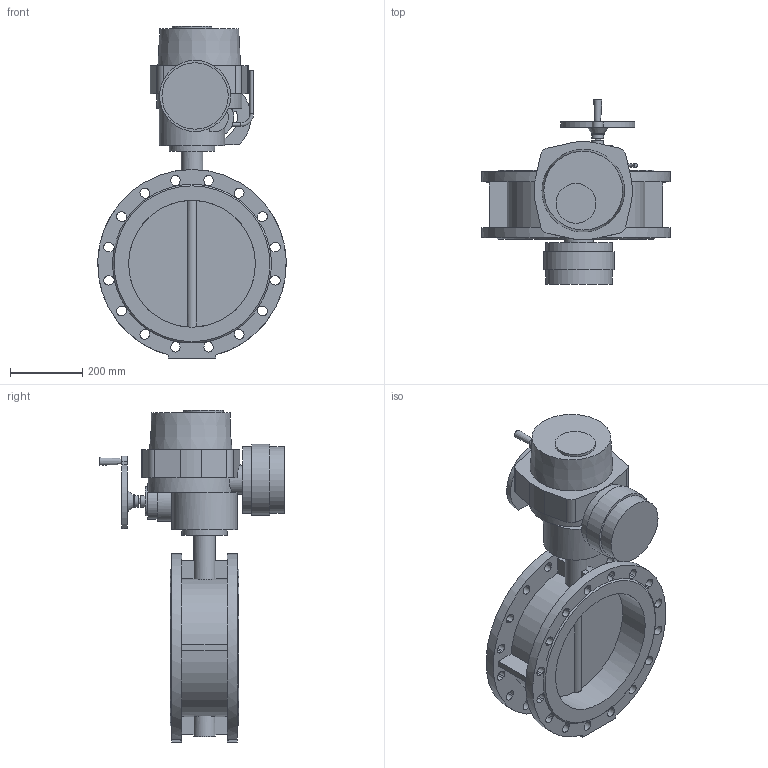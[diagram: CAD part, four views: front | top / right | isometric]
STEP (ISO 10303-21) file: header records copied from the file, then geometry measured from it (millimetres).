
FILE_DESCRIPTION(('STEP AP203'), '1');
FILE_NAME('青蜮铕 021F.Y DN350+菹 QT.A120', '', ('UNSPECIFIED'), ('UNSPECIFIED'), 'ASCON STEP Converter 1.6', 'ASCON Math Kernel', '');
FILE_SCHEMA(('CONFIG_CONTROL_DESIGN'));
Length unit declared in the file: millimetre
Bounding box: 520 x 509 x 916 mm (x, y, z)
Volume: 28996411.9 mm3; surface area: 1761586.8 mm2
Topology: 1 solids, 1 shells, 292 faces, 832 edges, 539 vertices
Faces by surface type: plane 163, cylinder 123, cone 5, torus 1
Full cylindrical faces by diameter (mm): 10 x6, 12 x4, 14 x4, 16 x1, 32 x2, 35 x1, 60 x2, 80 x2, 100 x1, 110 x1, 125 x1, 180 x1, 183 x2, 196 x1, 350 x2, 520 x2
Entity records: 13308 total; most frequent: CARTESIAN_POINT 3128, DIRECTION 1675, ORIENTED_EDGE 1554, EDGE_CURVE 777, AXIS2_PLACEMENT_3D 627, VERTEX_POINT 531, EDGE_LOOP 430, LINE 421
